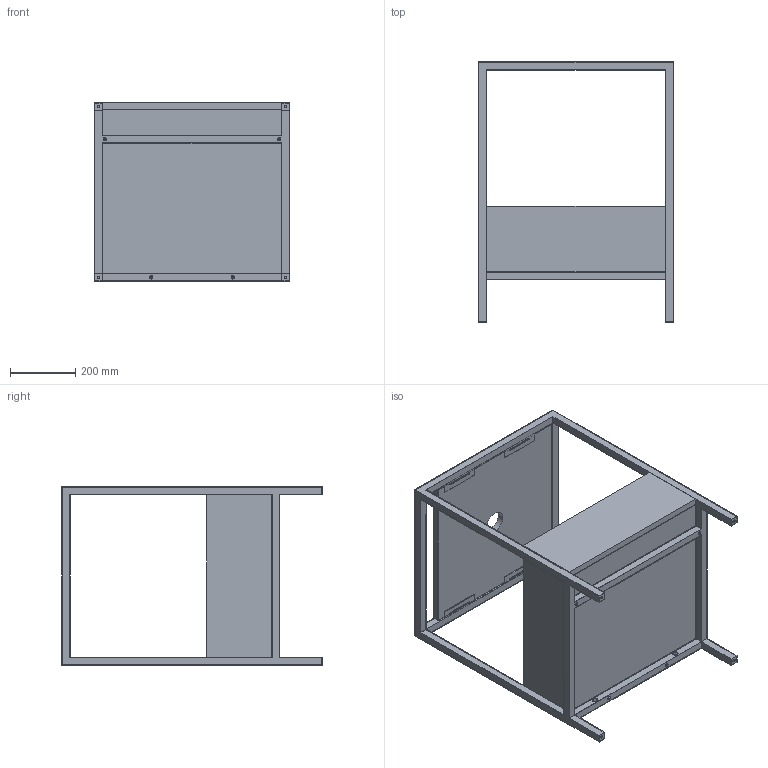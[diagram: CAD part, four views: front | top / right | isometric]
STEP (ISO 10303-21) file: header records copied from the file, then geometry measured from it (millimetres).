
FILE_DESCRIPTION (( 'STEP AP203' ), '1' );
FILE_NAME ('STA 60 01.STEP', '2019-02-04T11:59:14', ( '' ), ( '' ), 'SwSTEP 2.0', 'SolidWorks 2019', '' );
FILE_SCHEMA (( 'CONFIG_CONTROL_DESIGN' ));
Length unit declared in the file: millimetre
Products named in the file (4): cassetto STAND60; PIANO MISURA 60 2018; struttura STAND60 2018; STA 60 01
Assembly tree (3 placements, depth 2):
  STA 60 01
    struttura STAND60 2018
    PIANO MISURA 60 2018
    cassetto STAND60
Bounding box: 600 x 800 x 550 mm (x, y, z)
Volume: 24716989.3 mm3; surface area: 3872821.7 mm2
Topology: 4 solids, 4 shells, 189 faces, 506 edges, 316 vertices
Faces by surface type: plane 127, cylinder 54, torus 8
Entity records: 6336 total; most frequent: CARTESIAN_POINT 1017, ORIENTED_EDGE 1012, DIRECTION 1012, EDGE_CURVE 506, VECTOR 390, LINE 390, VERTEX_POINT 316, AXIS2_PLACEMENT_3D 311
